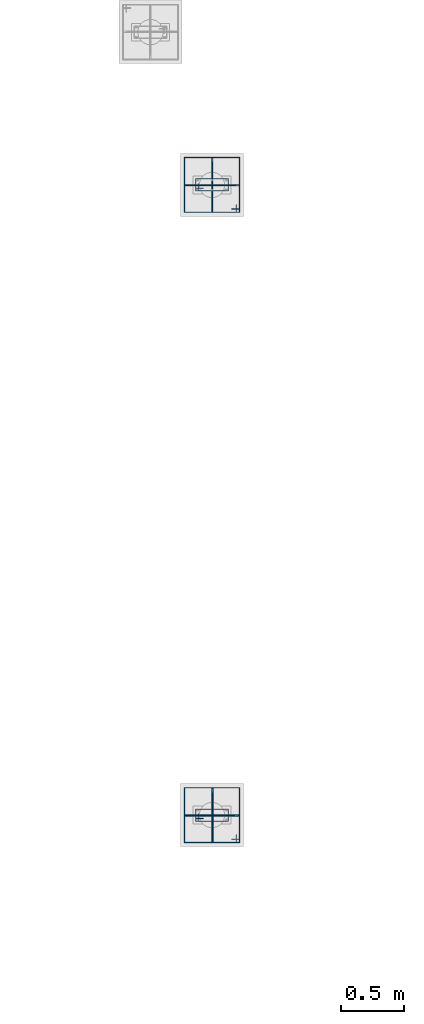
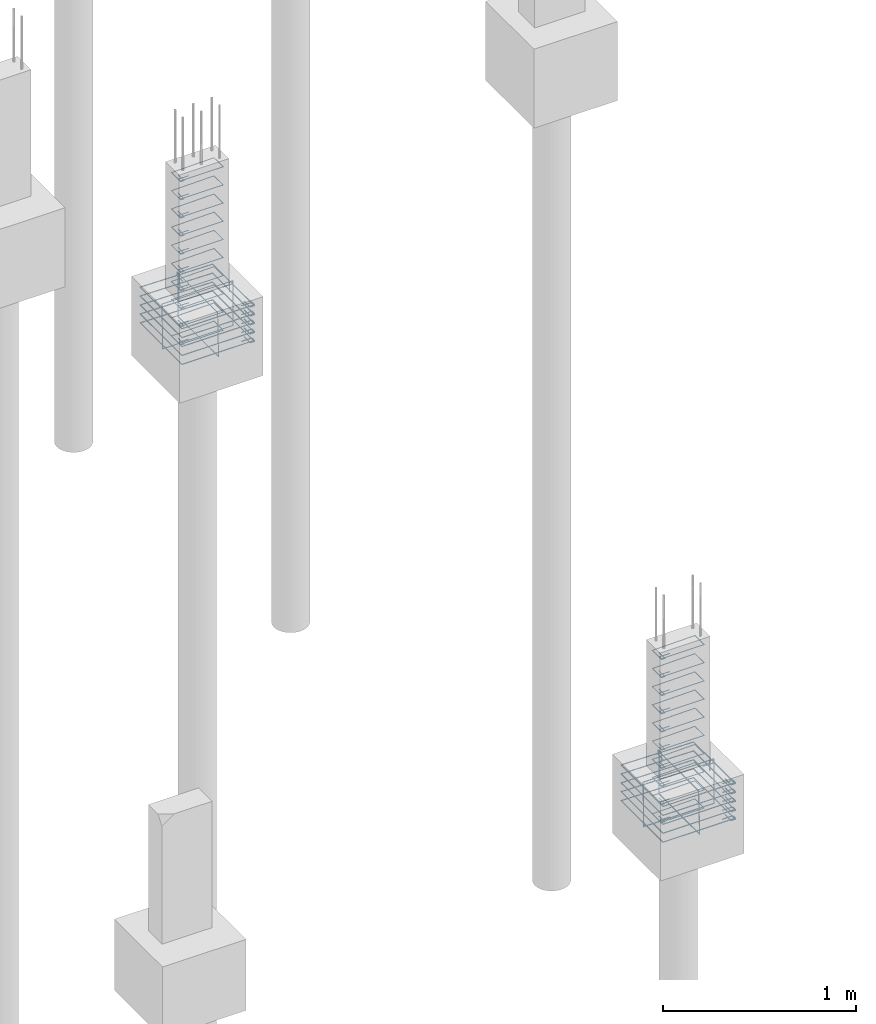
# One storey, part 87 of 119: 34 reinforcing bars.
"""IFC4 building model written with IfcOpenShell, lengths in centimetres."""

from ifc_helpers import new_model, entity, si_unit, derived_unit, frame, origin_with_axes, place, context, project, spatial, source, transform, mapped, element, save


model = new_model("IFC4")

# Units and contexts
model_context = context("Model", 3, precision=1e-05, world=origin_with_axes(), identifier="Body")
ifc_project = project(units=[si_unit("LENGTHUNIT", "METRE", prefix="CENTI"), si_unit("VOLUMEUNIT", "CUBIC_METRE"), si_unit("AREAUNIT", "SQUARE_METRE"), si_unit("POWERUNIT", "WATT"), si_unit("LUMINOUSFLUXUNIT", "LUMEN"), si_unit("ELECTRICCURRENTUNIT", "AMPERE"), si_unit("PRESSUREUNIT", "PASCAL", prefix="KILO"), si_unit("MASSUNIT", "GRAM", prefix="KILO"), si_unit("PLANEANGLEUNIT", "RADIAN"), derived_unit("VOLUMETRICFLOWRATEUNIT", [(si_unit("LENGTHUNIT", "METRE"), 3), (si_unit("TIMEUNIT", "SECOND"), -1)])], contexts=[model_context])

# Site, building, storey
site_placement = place(None, frame((-4000.0, 0.0, 0.0), z_axis=(0.0, 0.0, 1.0), x_axis=(1.0, 0.0, 0.0)))
site = spatial("IfcSite", under=ifc_project, at=site_placement, Name="PADRÃO")
building_placement = place(site_placement, frame((0.0, 0.0, -14.0)))
building = spatial("IfcBuilding", under=site, at=building_placement, Name="CRECHE PRÉ-ESCOLA TIPO 2")
storey_placement = place(building_placement, origin_with_axes())
storey = spatial("IfcBuildingStorey", under=building, at=storey_placement, Name="FUNDAÇÃO", CompositionType="ELEMENT", Elevation=-14.0)

# Reinforcing bars
shared_shape_1 = source(origin_with_axes(), model_context, "Body", "AdvancedSweptSolid", [
    entity("IfcSweptDiskSolid", entity("IfcCompositeCurve", [entity("IfcCompositeCurveSegment", "CONTINUOUS", True, entity("IfcPolyline", [entity("IfcCartesianPoint", [4.25, 21.75, 0.0]), entity("IfcCartesianPoint", [4.25, 27.75, 0.0])])), entity("IfcCompositeCurveSegment", "CONTINUOUS", True, entity("IfcPolyline", [entity("IfcCartesianPoint", [4.25, 27.75, 0.0]), entity("IfcCartesianPoint", [2.25, 27.75, 0.0])])), entity("IfcCompositeCurveSegment", "CONTINUOUS", True, entity("IfcPolyline", [entity("IfcCartesianPoint", [2.25, 27.75, 0.0]), entity("IfcCartesianPoint", [2.25, 2.25, 0.0])])), entity("IfcCompositeCurveSegment", "CONTINUOUS", True, entity("IfcPolyline", [entity("IfcCartesianPoint", [2.25, 2.25, 0.0]), entity("IfcCartesianPoint", [11.75, 2.25, 0.0])])), entity("IfcCompositeCurveSegment", "CONTINUOUS", True, entity("IfcPolyline", [entity("IfcCartesianPoint", [11.75, 2.25, 0.0]), entity("IfcCartesianPoint", [11.75, 27.75, -0.5])])), entity("IfcCompositeCurveSegment", "CONTINUOUS", True, entity("IfcPolyline", [entity("IfcCartesianPoint", [11.75, 27.75, -0.5]), entity("IfcCartesianPoint", [2.25, 27.75, -0.5])])), entity("IfcCompositeCurveSegment", "CONTINUOUS", True, entity("IfcPolyline", [entity("IfcCartesianPoint", [2.25, 27.75, -0.5]), entity("IfcCartesianPoint", [2.25, 25.75, -0.5])])), entity("IfcCompositeCurveSegment", "CONTINUOUS", True, entity("IfcPolyline", [entity("IfcCartesianPoint", [2.25, 25.75, -0.5]), entity("IfcCartesianPoint", [8.25, 25.75, -0.5])]))], False), 0.25),
])
for number, where, z_axis, x_axis, name in (
    (1, (1124.72, 2570.5, -5.75), (0.0, 0.0, 1.0), (0.0, 1.0, 0.0), "P71 - Estribo"),
    (2, (1124.72, 2570.5, -40.25), (0.0, 0.0, 1.0), (0.0, 1.0, 0.0), "P71 - Estribo"),
    (3, (1124.72, 2570.5, -28.75), (0.0, 0.0, 1.0), (0.0, 1.0, 0.0), "P71 - Estribo"),
    (4, (1124.72, 2570.5, -17.25), (0.0, 0.0, 1.0), (0.0, 1.0, 0.0), "P71 - Estribo"),
    (5, (1124.72, 2570.5, -109.25), (0.0, 0.0, 1.0), (0.0, 1.0, 0.0), "P71 - Estribo"),
    (6, (1124.72, 2570.5, -97.75), (0.0, 0.0, 1.0), (0.0, 1.0, 0.0), "P71 - Estribo"),
    (7, (1124.72, 2570.5, -86.25), (0.0, 0.0, 1.0), (0.0, 1.0, 0.0), "P71 - Estribo"),
    (8, (1124.72, 2570.5, -74.75), (0.0, 0.0, 1.0), (0.0, 1.0, 0.0), "P71 - Estribo"),
    (9, (1124.72, 2570.5, -51.75), (0.0, 0.0, 1.0), (0.0, 1.0, 0.0), "P71 - Estribo"),
    (10, (1124.72, 2570.5, -63.25), (0.0, 0.0, 1.0), (0.0, 1.0, 0.0), "P71 - Estribo"),
):
    element("IfcReinforcingBar", number, at=place(storey_placement, frame(where, z_axis=z_axis, x_axis=x_axis)), inside=storey, Name=name, BarLength=0.0, CrossSectionArea=1.9634954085e-05, NominalDiameter=0.5, PredefinedType="MAIN", context=model_context, shape_type="MappedRepresentation", body=[
        mapped(shared_shape_1, transform((0.0, 0.0, 0.0), scale=1.0)),
    ])
shared_shape_2 = source(origin_with_axes(), model_context, "Body", "AdvancedSweptSolid", [
    entity("IfcSweptDiskSolid", entity("IfcCompositeCurve", [entity("IfcCompositeCurveSegment", "CONTINUOUS", True, entity("IfcPolyline", [entity("IfcCartesianPoint", [1128.885, 2562.075, 0.0]), entity("IfcCartesianPoint", [1128.885, 2555.815, 0.0])])), entity("IfcCompositeCurveSegment", "CONTINUOUS", True, entity("IfcPolyline", [entity("IfcCartesianPoint", [1128.885, 2555.815, 0.0]), entity("IfcCartesianPoint", [1131.405, 2555.815, 0.0])])), entity("IfcCompositeCurveSegment", "CONTINUOUS", True, entity("IfcPolyline", [entity("IfcCartesianPoint", [1131.405, 2555.815, 0.0]), entity("IfcCartesianPoint", [1131.405, 2599.185, 0.0])])), entity("IfcCompositeCurveSegment", "CONTINUOUS", True, entity("IfcPolyline", [entity("IfcCartesianPoint", [1131.405, 2599.185, 0.0]), entity("IfcCartesianPoint", [1088.035, 2599.185, 0.63])])), entity("IfcCompositeCurveSegment", "CONTINUOUS", True, entity("IfcPolyline", [entity("IfcCartesianPoint", [1088.035, 2599.185, 0.63]), entity("IfcCartesianPoint", [1088.035, 2555.815, 0.63])])), entity("IfcCompositeCurveSegment", "CONTINUOUS", True, entity("IfcPolyline", [entity("IfcCartesianPoint", [1088.035, 2555.815, 0.63]), entity("IfcCartesianPoint", [1131.405, 2555.815, 0.63])])), entity("IfcCompositeCurveSegment", "CONTINUOUS", True, entity("IfcPolyline", [entity("IfcCartesianPoint", [1131.405, 2555.815, 0.63]), entity("IfcCartesianPoint", [1131.405, 2558.335, 0.63])])), entity("IfcCompositeCurveSegment", "CONTINUOUS", True, entity("IfcPolyline", [entity("IfcCartesianPoint", [1131.405, 2558.335, 0.63]), entity("IfcCartesianPoint", [1125.145, 2558.335, 0.63])]))], False), 0.315),
])
for number, where, z_axis, x_axis, name in (
    (11, (0.0, 0.0, -109.175), (0.0, 0.0, 1.0), (1.0, 0.0, 0.0), "P71 - Blocos (estribos)"),
    (12, (0.0, 0.0, -103.525), (0.0, 0.0, 1.0), (1.0, 0.0, 0.0), "P71 - Blocos (estribos)"),
    (13, (0.0, 0.0, -97.875), (0.0, 0.0, 1.0), (1.0, 0.0, 0.0), "P71 - Blocos (estribos)"),
    (14, (0.0, 0.0, -92.225), (0.0, 0.0, 1.0), (1.0, 0.0, 0.0), "P71 - Blocos (estribos)"),
    (15, (0.0, 0.0, -86.575), (0.0, 0.0, 1.0), (1.0, 0.0, 0.0), "P71 - Blocos (estribos)"),
):
    element("IfcReinforcingBar", number, at=place(storey_placement, frame(where, z_axis=z_axis, x_axis=x_axis)), inside=storey, Name=name, BarLength=0.0, CrossSectionArea=3.1172453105e-05, NominalDiameter=0.63, PredefinedType="MAIN", context=model_context, shape_type="MappedRepresentation", body=[
        mapped(shared_shape_2, transform((0.0, 0.0, 0.0), scale=1.0)),
    ])
shared_shape_3 = source(origin_with_axes(), model_context, "Body", "AdvancedSweptSolid", [
    entity("IfcSweptDiskSolid", entity("IfcCompositeCurve", [entity("IfcCompositeCurveSegment", "CONTINUOUS", True, entity("IfcPolyline", [entity("IfcCartesianPoint", [-14.795, -11.35, 0.0]), entity("IfcCartesianPoint", [-21.055, -11.35, 0.0])])), entity("IfcCompositeCurveSegment", "CONTINUOUS", True, entity("IfcPolyline", [entity("IfcCartesianPoint", [-21.055, -11.35, 0.0]), entity("IfcCartesianPoint", [-21.055, -13.87, 0.0])])), entity("IfcCompositeCurveSegment", "CONTINUOUS", True, entity("IfcPolyline", [entity("IfcCartesianPoint", [-21.055, -13.87, 0.0]), entity("IfcCartesianPoint", [21.055, -13.87, 0.0])])), entity("IfcCompositeCurveSegment", "CONTINUOUS", True, entity("IfcPolyline", [entity("IfcCartesianPoint", [21.055, -13.87, 0.0]), entity("IfcCartesianPoint", [21.055, 13.87, 0.63])])), entity("IfcCompositeCurveSegment", "CONTINUOUS", True, entity("IfcPolyline", [entity("IfcCartesianPoint", [21.055, 13.87, 0.63]), entity("IfcCartesianPoint", [-21.055, 13.87, 0.63])])), entity("IfcCompositeCurveSegment", "CONTINUOUS", True, entity("IfcPolyline", [entity("IfcCartesianPoint", [-21.055, 13.87, 0.63]), entity("IfcCartesianPoint", [-21.055, -13.87, 0.63])])), entity("IfcCompositeCurveSegment", "CONTINUOUS", True, entity("IfcPolyline", [entity("IfcCartesianPoint", [-21.055, -13.87, 0.63]), entity("IfcCartesianPoint", [-18.535, -13.87, 0.63])])), entity("IfcCompositeCurveSegment", "CONTINUOUS", True, entity("IfcPolyline", [entity("IfcCartesianPoint", [-18.535, -13.87, 0.63]), entity("IfcCartesianPoint", [-18.535, -7.61, 0.63])]))], False), 0.315),
])
reinforcing_bar_1_placement = place(storey_placement, frame((1109.72, 2577.5, -97.815), z_axis=(0.0, -1.0, 0.0), x_axis=(-1.0, 0.0, 0.0)))
element("IfcReinforcingBar", 16, at=reinforcing_bar_1_placement, inside=storey, Name="P71 - Blocos (estribos)", BarLength=0.0, CrossSectionArea=3.1172453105e-05, NominalDiameter=0.63, PredefinedType="MAIN", context=model_context, shape_type="MappedRepresentation", body=[
    mapped(shared_shape_3, transform((0.0, 0.0, 0.0), scale=1.0)),
])
shared_shape_4 = source(origin_with_axes(), model_context, "Body", "AdvancedSweptSolid", [
    entity("IfcSweptDiskSolid", entity("IfcCompositeCurve", [entity("IfcCompositeCurveSegment", "CONTINUOUS", True, entity("IfcPolyline", [entity("IfcCartesianPoint", [-14.795, -11.35, 0.0]), entity("IfcCartesianPoint", [-21.055, -11.35, 0.0])])), entity("IfcCompositeCurveSegment", "CONTINUOUS", True, entity("IfcPolyline", [entity("IfcCartesianPoint", [-21.055, -11.35, 0.0]), entity("IfcCartesianPoint", [-21.055, -13.87, 0.0])])), entity("IfcCompositeCurveSegment", "CONTINUOUS", True, entity("IfcPolyline", [entity("IfcCartesianPoint", [-21.055, -13.87, 0.0]), entity("IfcCartesianPoint", [21.055, -13.87, 0.0])])), entity("IfcCompositeCurveSegment", "CONTINUOUS", True, entity("IfcPolyline", [entity("IfcCartesianPoint", [21.055, -13.87, 0.0]), entity("IfcCartesianPoint", [21.055, 13.87, 0.63])])), entity("IfcCompositeCurveSegment", "CONTINUOUS", True, entity("IfcPolyline", [entity("IfcCartesianPoint", [21.055, 13.87, 0.63]), entity("IfcCartesianPoint", [-21.055, 13.87, 0.63])])), entity("IfcCompositeCurveSegment", "CONTINUOUS", True, entity("IfcPolyline", [entity("IfcCartesianPoint", [-21.055, 13.87, 0.63]), entity("IfcCartesianPoint", [-21.055, -13.87, 0.63])])), entity("IfcCompositeCurveSegment", "CONTINUOUS", True, entity("IfcPolyline", [entity("IfcCartesianPoint", [-21.055, -13.87, 0.63]), entity("IfcCartesianPoint", [-18.535, -13.87, 0.63])])), entity("IfcCompositeCurveSegment", "CONTINUOUS", True, entity("IfcPolyline", [entity("IfcCartesianPoint", [-18.535, -13.87, 0.63]), entity("IfcCartesianPoint", [-18.535, -7.61, 0.63])]))], False), 0.315),
])
reinforcing_bar_2_placement = place(storey_placement, frame((1109.72, 2577.5, -97.815), z_axis=(1.0, 0.0, 0.0), x_axis=(0.0, -1.0, 0.0)))
element("IfcReinforcingBar", 17, at=reinforcing_bar_2_placement, inside=storey, Name="P71 - Blocos (estribos)", BarLength=0.0, CrossSectionArea=3.1172453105e-05, NominalDiameter=0.63, PredefinedType="MAIN", context=model_context, shape_type="MappedRepresentation", body=[
    mapped(shared_shape_4, transform((0.0, 0.0, 0.0), scale=1.0)),
])
shared_shape_5 = source(origin_with_axes(), model_context, "Body", "AdvancedSweptSolid", [
    entity("IfcSweptDiskSolid", entity("IfcCompositeCurve", [entity("IfcCompositeCurveSegment", "CONTINUOUS", True, entity("IfcPolyline", [entity("IfcCartesianPoint", [4.25, 21.75, 0.0]), entity("IfcCartesianPoint", [4.25, 27.75, 0.0])])), entity("IfcCompositeCurveSegment", "CONTINUOUS", True, entity("IfcPolyline", [entity("IfcCartesianPoint", [4.25, 27.75, 0.0]), entity("IfcCartesianPoint", [2.25, 27.75, 0.0])])), entity("IfcCompositeCurveSegment", "CONTINUOUS", True, entity("IfcPolyline", [entity("IfcCartesianPoint", [2.25, 27.75, 0.0]), entity("IfcCartesianPoint", [2.25, 2.25, 0.0])])), entity("IfcCompositeCurveSegment", "CONTINUOUS", True, entity("IfcPolyline", [entity("IfcCartesianPoint", [2.25, 2.25, 0.0]), entity("IfcCartesianPoint", [11.75, 2.25, 0.0])])), entity("IfcCompositeCurveSegment", "CONTINUOUS", True, entity("IfcPolyline", [entity("IfcCartesianPoint", [11.75, 2.25, 0.0]), entity("IfcCartesianPoint", [11.75, 27.75, -0.5])])), entity("IfcCompositeCurveSegment", "CONTINUOUS", True, entity("IfcPolyline", [entity("IfcCartesianPoint", [11.75, 27.75, -0.5]), entity("IfcCartesianPoint", [2.25, 27.75, -0.5])])), entity("IfcCompositeCurveSegment", "CONTINUOUS", True, entity("IfcPolyline", [entity("IfcCartesianPoint", [2.25, 27.75, -0.5]), entity("IfcCartesianPoint", [2.25, 25.75, -0.5])])), entity("IfcCompositeCurveSegment", "CONTINUOUS", True, entity("IfcPolyline", [entity("IfcCartesianPoint", [2.25, 25.75, -0.5]), entity("IfcCartesianPoint", [8.25, 25.75, -0.5])]))], False), 0.25),
])
for number, where, z_axis, x_axis, name in (
    (18, (1124.72, 3069.5, -97.75), (0.0, 0.0, 1.0), (0.0, 1.0, 0.0), "P58 - Estribo"),
    (19, (1124.72, 3069.5, -86.25), (0.0, 0.0, 1.0), (0.0, 1.0, 0.0), "P58 - Estribo"),
    (20, (1124.72, 3069.5, -74.75), (0.0, 0.0, 1.0), (0.0, 1.0, 0.0), "P58 - Estribo"),
    (21, (1124.72, 3069.5, -63.25), (0.0, 0.0, 1.0), (0.0, 1.0, 0.0), "P58 - Estribo"),
    (22, (1124.72, 3069.5, -51.75), (0.0, 0.0, 1.0), (0.0, 1.0, 0.0), "P58 - Estribo"),
    (23, (1124.72, 3069.5, -40.25), (0.0, 0.0, 1.0), (0.0, 1.0, 0.0), "P58 - Estribo"),
    (24, (1124.72, 3069.5, -28.75), (0.0, 0.0, 1.0), (0.0, 1.0, 0.0), "P58 - Estribo"),
    (25, (1124.72, 3069.5, -109.25), (0.0, 0.0, 1.0), (0.0, 1.0, 0.0), "P58 - Estribo"),
    (26, (1124.72, 3069.5, -17.25), (0.0, 0.0, 1.0), (0.0, 1.0, 0.0), "P58 - Estribo"),
    (27, (1124.72, 3069.5, -5.75), (0.0, 0.0, 1.0), (0.0, 1.0, 0.0), "P58 - Estribo"),
):
    element("IfcReinforcingBar", number, at=place(storey_placement, frame(where, z_axis=z_axis, x_axis=x_axis)), inside=storey, Name=name, BarLength=0.0, CrossSectionArea=1.9634954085e-05, NominalDiameter=0.5, PredefinedType="MAIN", context=model_context, shape_type="MappedRepresentation", body=[
        mapped(shared_shape_5, transform((0.0, 0.0, 0.0), scale=1.0)),
    ])
shared_shape_6 = source(origin_with_axes(), model_context, "Body", "AdvancedSweptSolid", [
    entity("IfcSweptDiskSolid", entity("IfcCompositeCurve", [entity("IfcCompositeCurveSegment", "CONTINUOUS", True, entity("IfcPolyline", [entity("IfcCartesianPoint", [1128.885, 3061.075, 0.0]), entity("IfcCartesianPoint", [1128.885, 3054.815, 0.0])])), entity("IfcCompositeCurveSegment", "CONTINUOUS", True, entity("IfcPolyline", [entity("IfcCartesianPoint", [1128.885, 3054.815, 0.0]), entity("IfcCartesianPoint", [1131.405, 3054.815, 0.0])])), entity("IfcCompositeCurveSegment", "CONTINUOUS", True, entity("IfcPolyline", [entity("IfcCartesianPoint", [1131.405, 3054.815, 0.0]), entity("IfcCartesianPoint", [1131.405, 3098.185, 0.0])])), entity("IfcCompositeCurveSegment", "CONTINUOUS", True, entity("IfcPolyline", [entity("IfcCartesianPoint", [1131.405, 3098.185, 0.0]), entity("IfcCartesianPoint", [1088.035, 3098.185, 0.63])])), entity("IfcCompositeCurveSegment", "CONTINUOUS", True, entity("IfcPolyline", [entity("IfcCartesianPoint", [1088.035, 3098.185, 0.63]), entity("IfcCartesianPoint", [1088.035, 3054.815, 0.63])])), entity("IfcCompositeCurveSegment", "CONTINUOUS", True, entity("IfcPolyline", [entity("IfcCartesianPoint", [1088.035, 3054.815, 0.63]), entity("IfcCartesianPoint", [1131.405, 3054.815, 0.63])])), entity("IfcCompositeCurveSegment", "CONTINUOUS", True, entity("IfcPolyline", [entity("IfcCartesianPoint", [1131.405, 3054.815, 0.63]), entity("IfcCartesianPoint", [1131.405, 3057.335, 0.63])])), entity("IfcCompositeCurveSegment", "CONTINUOUS", True, entity("IfcPolyline", [entity("IfcCartesianPoint", [1131.405, 3057.335, 0.63]), entity("IfcCartesianPoint", [1125.145, 3057.335, 0.63])]))], False), 0.315),
])
for number, where, z_axis, x_axis, name in (
    (28, (0.0, 0.0, -109.175), (0.0, 0.0, 1.0), (1.0, 0.0, 0.0), "P58 - Blocos (estribos)"),
    (29, (0.0, 0.0, -103.525), (0.0, 0.0, 1.0), (1.0, 0.0, 0.0), "P58 - Blocos (estribos)"),
    (30, (0.0, 0.0, -97.875), (0.0, 0.0, 1.0), (1.0, 0.0, 0.0), "P58 - Blocos (estribos)"),
    (31, (0.0, 0.0, -92.225), (0.0, 0.0, 1.0), (1.0, 0.0, 0.0), "P58 - Blocos (estribos)"),
    (32, (0.0, 0.0, -86.575), (0.0, 0.0, 1.0), (1.0, 0.0, 0.0), "P58 - Blocos (estribos)"),
):
    element("IfcReinforcingBar", number, at=place(storey_placement, frame(where, z_axis=z_axis, x_axis=x_axis)), inside=storey, Name=name, BarLength=0.0, CrossSectionArea=3.1172453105e-05, NominalDiameter=0.63, PredefinedType="MAIN", context=model_context, shape_type="MappedRepresentation", body=[
        mapped(shared_shape_6, transform((0.0, 0.0, 0.0), scale=1.0)),
    ])
shared_shape_7 = source(origin_with_axes(), model_context, "Body", "AdvancedSweptSolid", [
    entity("IfcSweptDiskSolid", entity("IfcCompositeCurve", [entity("IfcCompositeCurveSegment", "CONTINUOUS", True, entity("IfcPolyline", [entity("IfcCartesianPoint", [-15.12, -12.0, 0.0]), entity("IfcCartesianPoint", [-21.12, -12.0, 0.0])])), entity("IfcCompositeCurveSegment", "CONTINUOUS", True, entity("IfcPolyline", [entity("IfcCartesianPoint", [-21.12, -12.0, 0.0]), entity("IfcCartesianPoint", [-21.12, -14.0, 0.0])])), entity("IfcCompositeCurveSegment", "CONTINUOUS", True, entity("IfcPolyline", [entity("IfcCartesianPoint", [-21.12, -14.0, 0.0]), entity("IfcCartesianPoint", [21.12, -14.0, 0.0])])), entity("IfcCompositeCurveSegment", "CONTINUOUS", True, entity("IfcPolyline", [entity("IfcCartesianPoint", [21.12, -14.0, 0.0]), entity("IfcCartesianPoint", [21.12, 14.0, 0.5])])), entity("IfcCompositeCurveSegment", "CONTINUOUS", True, entity("IfcPolyline", [entity("IfcCartesianPoint", [21.12, 14.0, 0.5]), entity("IfcCartesianPoint", [-21.12, 14.0, 0.5])])), entity("IfcCompositeCurveSegment", "CONTINUOUS", True, entity("IfcPolyline", [entity("IfcCartesianPoint", [-21.12, 14.0, 0.5]), entity("IfcCartesianPoint", [-21.12, -14.0, 0.5])])), entity("IfcCompositeCurveSegment", "CONTINUOUS", True, entity("IfcPolyline", [entity("IfcCartesianPoint", [-21.12, -14.0, 0.5]), entity("IfcCartesianPoint", [-19.12, -14.0, 0.5])])), entity("IfcCompositeCurveSegment", "CONTINUOUS", True, entity("IfcPolyline", [entity("IfcCartesianPoint", [-19.12, -14.0, 0.5]), entity("IfcCartesianPoint", [-19.12, -8.0, 0.5])]))], False), 0.25),
])
reinforcing_bar_3_placement = place(storey_placement, frame((1109.72, 3076.5, -97.75), z_axis=(0.0, -1.0, 0.0), x_axis=(-1.0, 0.0, 0.0)))
element("IfcReinforcingBar", 33, at=reinforcing_bar_3_placement, inside=storey, Name="P58 - Blocos (estribos)", BarLength=0.0, CrossSectionArea=1.9634954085e-05, NominalDiameter=0.5, PredefinedType="MAIN", context=model_context, shape_type="MappedRepresentation", body=[
    mapped(shared_shape_7, transform((0.0, 0.0, 0.0), scale=1.0)),
])
shared_shape_8 = source(origin_with_axes(), model_context, "Body", "AdvancedSweptSolid", [
    entity("IfcSweptDiskSolid", entity("IfcCompositeCurve", [entity("IfcCompositeCurveSegment", "CONTINUOUS", True, entity("IfcPolyline", [entity("IfcCartesianPoint", [-15.12, -12.0, 0.0]), entity("IfcCartesianPoint", [-21.12, -12.0, 0.0])])), entity("IfcCompositeCurveSegment", "CONTINUOUS", True, entity("IfcPolyline", [entity("IfcCartesianPoint", [-21.12, -12.0, 0.0]), entity("IfcCartesianPoint", [-21.12, -14.0, 0.0])])), entity("IfcCompositeCurveSegment", "CONTINUOUS", True, entity("IfcPolyline", [entity("IfcCartesianPoint", [-21.12, -14.0, 0.0]), entity("IfcCartesianPoint", [21.12, -14.0, 0.0])])), entity("IfcCompositeCurveSegment", "CONTINUOUS", True, entity("IfcPolyline", [entity("IfcCartesianPoint", [21.12, -14.0, 0.0]), entity("IfcCartesianPoint", [21.12, 14.0, 0.5])])), entity("IfcCompositeCurveSegment", "CONTINUOUS", True, entity("IfcPolyline", [entity("IfcCartesianPoint", [21.12, 14.0, 0.5]), entity("IfcCartesianPoint", [-21.12, 14.0, 0.5])])), entity("IfcCompositeCurveSegment", "CONTINUOUS", True, entity("IfcPolyline", [entity("IfcCartesianPoint", [-21.12, 14.0, 0.5]), entity("IfcCartesianPoint", [-21.12, -14.0, 0.5])])), entity("IfcCompositeCurveSegment", "CONTINUOUS", True, entity("IfcPolyline", [entity("IfcCartesianPoint", [-21.12, -14.0, 0.5]), entity("IfcCartesianPoint", [-19.12, -14.0, 0.5])])), entity("IfcCompositeCurveSegment", "CONTINUOUS", True, entity("IfcPolyline", [entity("IfcCartesianPoint", [-19.12, -14.0, 0.5]), entity("IfcCartesianPoint", [-19.12, -8.0, 0.5])]))], False), 0.25),
])
reinforcing_bar_4_placement = place(storey_placement, frame((1109.72, 3076.5, -97.75), z_axis=(1.0, 0.0, 0.0), x_axis=(0.0, -1.0, 0.0)))
element("IfcReinforcingBar", 34, at=reinforcing_bar_4_placement, inside=storey, Name="P58 - Blocos (estribos)", BarLength=0.0, CrossSectionArea=1.9634954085e-05, NominalDiameter=0.5, PredefinedType="MAIN", context=model_context, shape_type="MappedRepresentation", body=[
    mapped(shared_shape_8, transform((0.0, 0.0, 0.0), scale=1.0)),
])

save(model, "model.ifc")
